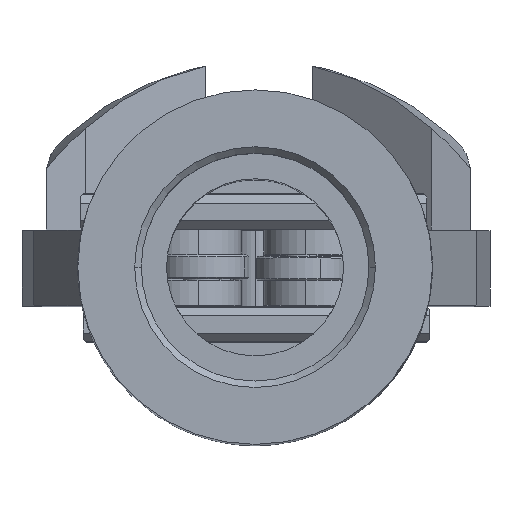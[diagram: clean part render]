
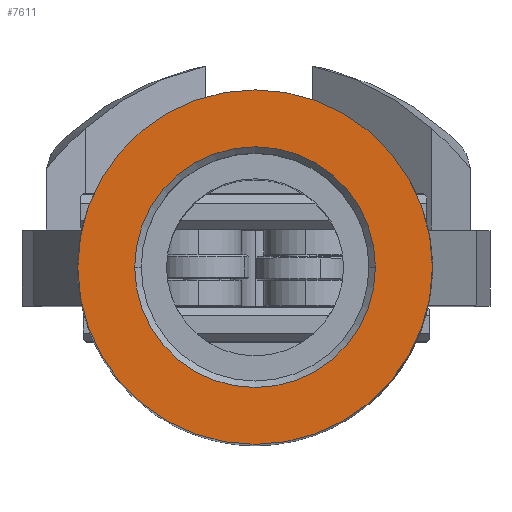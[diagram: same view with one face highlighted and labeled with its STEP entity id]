
A CAD part, top view. The second image highlights one B-rep face of the part: STEP entity #7611.
In plain terms, the highlighted planar face has unit normal (0, 0, 1).
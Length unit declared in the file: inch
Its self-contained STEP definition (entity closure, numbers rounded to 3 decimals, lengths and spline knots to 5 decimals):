
#40 = DIRECTION ( 'NONE',  ( 0., 0., -1. ) ) ;
#41 = DIRECTION ( 'NONE',  ( 1., 0., 0. ) ) ;
#245 = VERTEX_POINT ( 'NONE', #2795 ) ;
#247 = EDGE_CURVE ( 'NONE', #248, #245, #2249, .T. ) ;
#248 = VERTEX_POINT ( 'NONE', #2852 ) ;
#374 = EDGE_CURVE ( 'NONE', #375, #376, #3155, .T. ) ;
#375 = VERTEX_POINT ( 'NONE', #3186 ) ;
#376 = VERTEX_POINT ( 'NONE', #3185 ) ;
#2249 = CIRCLE ( 'NONE', #2255, 0.594 ) ;
#2255 = AXIS2_PLACEMENT_3D ( 'NONE', #2794, #40, #41 ) ;
#2414 = EDGE_CURVE ( 'NONE', #376, #375, #6316, .T. ) ;
#2794 = CARTESIAN_POINT ( 'NONE',  ( 0., 0., 4.156 ) ) ;
#2795 = CARTESIAN_POINT ( 'NONE',  ( -0.594, 0., 4.156 ) ) ;
#2852 = CARTESIAN_POINT ( 'NONE',  ( 0.594, 0., 4.156 ) ) ;
#3155 = CIRCLE ( 'NONE', #3190, 0.875 ) ;
#3185 = CARTESIAN_POINT ( 'NONE',  ( -0.875, 0., 4.156 ) ) ;
#3186 = CARTESIAN_POINT ( 'NONE',  ( 0.875, 0., 4.156 ) ) ;
#3187 = DIRECTION ( 'NONE',  ( 1., 0., 0. ) ) ;
#3188 = DIRECTION ( 'NONE',  ( 0., 0., 1. ) ) ;
#3189 = CARTESIAN_POINT ( 'NONE',  ( 0., 0., 4.156 ) ) ;
#3190 = AXIS2_PLACEMENT_3D ( 'NONE', #3189, #3188, #3187 ) ;
#6312 = DIRECTION ( 'NONE',  ( 1., 0., 0. ) ) ;
#6313 = DIRECTION ( 'NONE',  ( 0., 0., 1. ) ) ;
#6314 = CARTESIAN_POINT ( 'NONE',  ( 0., 0., 4.156 ) ) ;
#6315 = AXIS2_PLACEMENT_3D ( 'NONE', #6314, #6313, #6312 ) ;
#6316 = CIRCLE ( 'NONE', #6315, 0.875 ) ;
#6680 = PLANE ( 'NONE',  #6681 ) ;
#6681 = AXIS2_PLACEMENT_3D ( 'NONE', #6742, #6741, #6740 ) ;
#6682 = FACE_OUTER_BOUND ( 'NONE', #6918, .T. ) ;
#6683 = FACE_BOUND ( 'NONE', #7220, .T. ) ;
#6684 = DIRECTION ( 'NONE',  ( 1., 0., 0. ) ) ;
#6685 = DIRECTION ( 'NONE',  ( 0., 0., -1. ) ) ;
#6686 = CARTESIAN_POINT ( 'NONE',  ( 0., 0., 4.156 ) ) ;
#6687 = AXIS2_PLACEMENT_3D ( 'NONE', #6686, #6685, #6684 ) ;
#6689 = CIRCLE ( 'NONE', #6687, 0.594 ) ;
#6740 = DIRECTION ( 'NONE',  ( 1., 0., 0. ) ) ;
#6741 = DIRECTION ( 'NONE',  ( 0., 0., 1. ) ) ;
#6742 = CARTESIAN_POINT ( 'NONE',  ( 0., 0., 4.156 ) ) ;
#6918 = EDGE_LOOP ( 'NONE', ( #6949, #7011 ) ) ;
#6949 = ORIENTED_EDGE ( 'NONE', *, *, #2414, .T. ) ;
#7011 = ORIENTED_EDGE ( 'NONE', *, *, #374, .T. ) ;
#7074 = ORIENTED_EDGE ( 'NONE', *, *, #247, .T. ) ;
#7134 = EDGE_CURVE ( 'NONE', #245, #248, #6689, .T. ) ;
#7151 = ORIENTED_EDGE ( 'NONE', *, *, #7134, .T. ) ;
#7220 = EDGE_LOOP ( 'NONE', ( #7074, #7151 ) ) ;
#7611 = ADVANCED_FACE ( 'NONE', ( #6683, #6682 ), #6680, .T. ) ;
